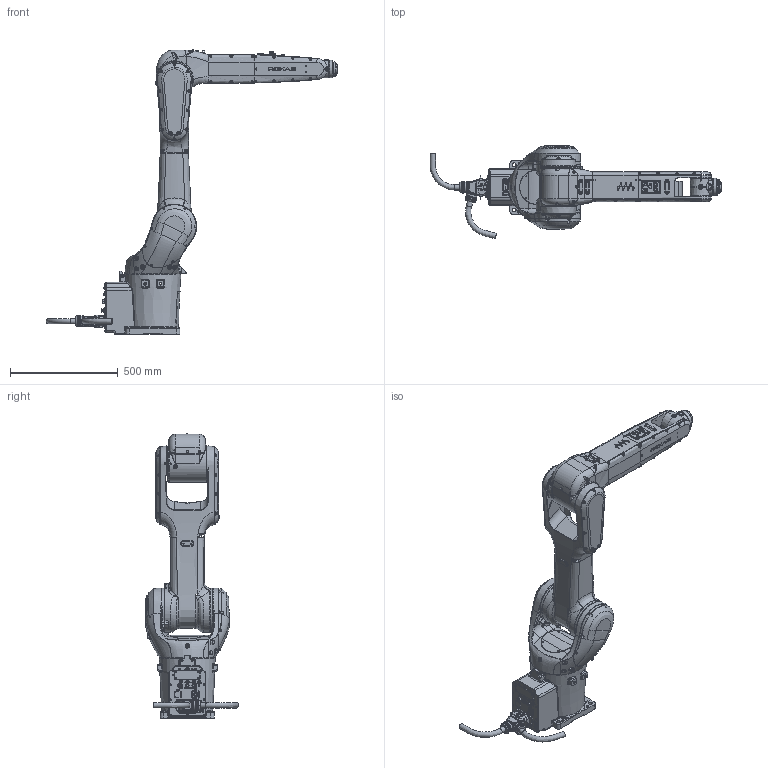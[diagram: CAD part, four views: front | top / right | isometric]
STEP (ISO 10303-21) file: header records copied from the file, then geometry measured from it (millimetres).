
FILE_DESCRIPTION (( 'STEP AP203' ), '1' );
FILE_NAME ('Rokae NB12-12-1.4.STEP', '2026-09-17T09:29:12', ( '' ), ( '' ), 'SwSTEP 2.0', 'SolidWorks 2026', '' );
FILE_SCHEMA (( 'CONFIG_CONTROL_DESIGN' ));
Length unit declared in the file: millimetre
Products named in the file (1): Rokae NB12-12-1.4
Bounding box: 1352.58 x 432.17 x 1319.15 mm (x, y, z)
Surface area: 2132266.2 mm2 (no closed solid volume)
Topology: 0 solids, 310 shells, 1469 faces, 7212 edges, 5834 vertices
Faces by surface type: plane 521, bspline 396, cylinder 395, torus 93, cone 59, sphere 5
Full cylindrical faces by diameter (mm): 3.5 x1, 4.1 x1, 4.2 x3, 5 x3, 5.5 x8, 7 x49, 10 x1, 10.3 x4, 11 x1, 12.65 x2, 13 x6, 14 x4, 15.9 x2, 16 x5, 17 x1, 17.5 x4, 20 x3, 20.5 x1, 25 x2, 40 x1, 47.5 x2, 49.55 x4, 60 x1, 65 x1, 80 x2, 96 x1, 138 x1, 140 x1, 159 x1, 160 x1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
Entity records: 180484 total; most frequent: CARTESIAN_POINT 131202, ORIENTED_EDGE 8945, DIRECTION 8263, EDGE_CURVE 6946, VERTEX_POINT 5777, AXIS2_PLACEMENT_3D 2890, LINE 2483, VECTOR 2483
